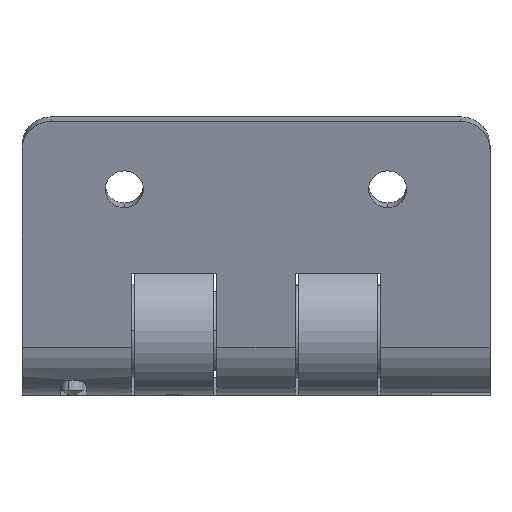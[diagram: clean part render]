
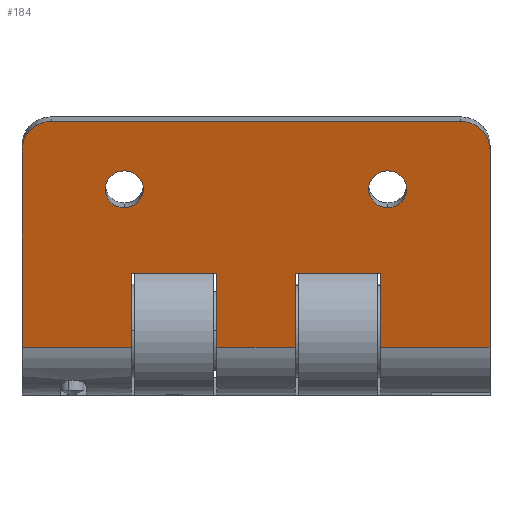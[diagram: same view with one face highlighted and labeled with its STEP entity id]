
A CAD part, left-side view. The second image highlights one B-rep face of the part: STEP entity #184.
In plain terms, the highlighted planar face has unit normal (-0.966, 0, -0.259).
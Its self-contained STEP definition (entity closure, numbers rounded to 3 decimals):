
#184=ADVANCED_FACE('NONE',(#376,#377,#378),#379,.T.);
#376=FACE_OUTER_BOUND('',#675,.T.);
#377=FACE_BOUND('',#676,.T.);
#378=FACE_BOUND('',#677,.T.);
#379=PLANE('',#678);
#675=EDGE_LOOP('',(#1848,#1849,#1850,#1851,#1852,#1853,#1854,#1855,#1856,#1857,#1858,#1859,#1860,#1861));
#676=EDGE_LOOP('',(#1862,#1863));
#677=EDGE_LOOP('',(#1864,#1865));
#678=AXIS2_PLACEMENT_3D('',#1866,#1867,#1868);
#1848=ORIENTED_EDGE('',*,*,#2782,.T.);
#1849=ORIENTED_EDGE('',*,*,#2806,.F.);
#1850=ORIENTED_EDGE('',*,*,#2807,.F.);
#1851=ORIENTED_EDGE('',*,*,#2808,.F.);
#1852=ORIENTED_EDGE('',*,*,#2764,.T.);
#1853=ORIENTED_EDGE('',*,*,#2799,.F.);
#1854=ORIENTED_EDGE('',*,*,#2809,.F.);
#1855=ORIENTED_EDGE('',*,*,#2810,.F.);
#1856=ORIENTED_EDGE('',*,*,#2756,.T.);
#1857=ORIENTED_EDGE('',*,*,#2811,.F.);
#1858=ORIENTED_EDGE('',*,*,#2812,.F.);
#1859=ORIENTED_EDGE('',*,*,#2813,.F.);
#1860=ORIENTED_EDGE('',*,*,#2814,.F.);
#1861=ORIENTED_EDGE('',*,*,#2815,.F.);
#1862=ORIENTED_EDGE('',*,*,#2738,.F.);
#1863=ORIENTED_EDGE('',*,*,#2816,.F.);
#1864=ORIENTED_EDGE('',*,*,#2734,.F.);
#1865=ORIENTED_EDGE('',*,*,#2817,.F.);
#1866=CARTESIAN_POINT('',(-7.778,90.0,-13.472));
#1867=DIRECTION('',(-0.966,0.,-0.259));
#1868=DIRECTION('',(0.259,0.,-0.966));
#2734=EDGE_CURVE('NONE',#3178,#3179,#3180,.T.);
#2738=EDGE_CURVE('NONE',#3186,#3187,#3188,.T.);
#2756=EDGE_CURVE('NONE',#3209,#3221,#3223,.T.);
#2764=EDGE_CURVE('NONE',#3233,#3237,#3239,.T.);
#2782=EDGE_CURVE('NONE',#3255,#3273,#3275,.T.);
#2799=EDGE_CURVE('NONE',#3303,#3237,#3305,.T.);
#2806=EDGE_CURVE('NONE',#3314,#3273,#3315,.T.);
#2807=EDGE_CURVE('NONE',#3316,#3314,#3317,.T.);
#2808=EDGE_CURVE('NONE',#3233,#3316,#3318,.T.);
#2809=EDGE_CURVE('NONE',#3319,#3303,#3320,.T.);
#2810=EDGE_CURVE('NONE',#3209,#3319,#3321,.T.);
#2811=EDGE_CURVE('NONE',#3322,#3221,#3323,.T.);
#2812=EDGE_CURVE('NONE',#3324,#3322,#3325,.T.);
#2813=EDGE_CURVE('NONE',#3326,#3324,#3327,.T.);
#2814=EDGE_CURVE('NONE',#3328,#3326,#3329,.T.);
#2815=EDGE_CURVE('NONE',#3255,#3328,#3330,.T.);
#2816=EDGE_CURVE('NONE',#3187,#3186,#3331,.T.);
#2817=EDGE_CURVE('NONE',#3179,#3178,#3332,.T.);
#3178=VERTEX_POINT('NONE',#3927);
#3179=VERTEX_POINT('NONE',#3928);
#3180=CIRCLE('',#3929,3.25);
#3186=VERTEX_POINT('NONE',#3937);
#3187=VERTEX_POINT('NONE',#3938);
#3188=CIRCLE('',#3939,3.25);
#3209=VERTEX_POINT('NONE',#3965);
#3221=VERTEX_POINT('NONE',#3980);
#3223=LINE('',#3982,#3983);
#3233=VERTEX_POINT('NONE',#3995);
#3237=VERTEX_POINT('NONE',#4000);
#3239=LINE('',#4002,#4003);
#3255=VERTEX_POINT('NONE',#4042);
#3273=VERTEX_POINT('NONE',#4094);
#3275=LINE('',#4096,#4097);
#3303=VERTEX_POINT('NONE',#4194);
#3305=LINE('',#4197,#4198);
#3314=VERTEX_POINT('NONE',#4210);
#3315=LINE('',#4211,#4212);
#3316=VERTEX_POINT('NONE',#4213);
#3317=LINE('',#4214,#4215);
#3318=LINE('',#4216,#4217);
#3319=VERTEX_POINT('NONE',#4218);
#3320=LINE('',#4219,#4220);
#3321=LINE('',#4221,#4222);
#3322=VERTEX_POINT('NONE',#4223);
#3323=LINE('',#4224,#4225);
#3324=VERTEX_POINT('NONE',#4226);
#3325=CIRCLE('',#4227,5.0);
#3326=VERTEX_POINT('NONE',#4228);
#3327=LINE('',#4229,#4230);
#3328=VERTEX_POINT('NONE',#4231);
#3329=CIRCLE('',#4232,5.0);
#3330=LINE('',#4233,#4234);
#3331=CIRCLE('',#4235,3.25);
#3332=CIRCLE('',#4236,3.25);
#3927=CARTESIAN_POINT('',(-18.713,22.5,27.338));
#3928=CARTESIAN_POINT('',(-17.031,22.5,21.06));
#3929=AXIS2_PLACEMENT_3D('',#5203,#5204,#5205);
#3937=CARTESIAN_POINT('',(-18.713,-22.5,27.338));
#3938=CARTESIAN_POINT('',(-17.031,-22.5,21.06));
#3939=AXIS2_PLACEMENT_3D('',#5211,#5212,#5213);
#3965=CARTESIAN_POINT('',(-10.625,-21.3,-2.847));
#3980=CARTESIAN_POINT('',(-10.625,-40.0,-2.847));
#3982=CARTESIAN_POINT('',(-10.625,100.0,-2.847));
#3983=VECTOR('',#5249,1000.0);
#3995=CARTESIAN_POINT('',(-10.625,6.7,-2.847));
#4000=CARTESIAN_POINT('',(-10.625,-6.7,-2.847));
#4002=CARTESIAN_POINT('',(-10.625,90.0,-2.847));
#4003=VECTOR('',#5265,1000.0);
#4042=CARTESIAN_POINT('',(-10.625,40.0,-2.847));
#4094=CARTESIAN_POINT('',(-10.625,21.3,-2.847));
#4096=CARTESIAN_POINT('',(-10.625,80.0,-2.847));
#4097=VECTOR('',#5289,1000.0);
#4194=CARTESIAN_POINT('',(-13.99,-6.7,9.71));
#4197=CARTESIAN_POINT('',(-7.778,-6.7,-13.472));
#4198=VECTOR('',#5312,1000.0);
#4210=CARTESIAN_POINT('',(-13.99,21.3,9.71));
#4211=CARTESIAN_POINT('',(-7.778,21.3,-13.472));
#4212=VECTOR('',#5325,1000.0);
#4213=CARTESIAN_POINT('',(-13.99,6.7,9.71));
#4214=CARTESIAN_POINT('',(-13.99,5.0,9.71));
#4215=VECTOR('',#5326,1000.0);
#4216=CARTESIAN_POINT('',(-7.778,6.7,-13.472));
#4217=VECTOR('',#5327,1000.0);
#4218=CARTESIAN_POINT('',(-13.99,-21.3,9.71));
#4219=CARTESIAN_POINT('',(-13.99,-25.0,9.71));
#4220=VECTOR('',#5328,1000.0);
#4221=CARTESIAN_POINT('',(-7.778,-21.3,-13.472));
#4222=VECTOR('',#5329,1000.0);
#4223=CARTESIAN_POINT('',(-19.684,-40.0,30.96));
#4224=CARTESIAN_POINT('',(-14.378,-40.0,11.159));
#4225=VECTOR('',#5330,1000.0);
#4226=CARTESIAN_POINT('',(-20.978,-35.0,35.79));
#4227=AXIS2_PLACEMENT_3D('',#5331,#5332,#5333);
#4228=CARTESIAN_POINT('',(-20.978,35.0,35.79));
#4229=CARTESIAN_POINT('',(-20.978,90.0,35.79));
#4230=VECTOR('',#5334,1000.0);
#4231=CARTESIAN_POINT('',(-19.684,40.0,30.96));
#4232=AXIS2_PLACEMENT_3D('',#5335,#5336,#5337);
#4233=CARTESIAN_POINT('',(-14.378,40.0,11.159));
#4234=VECTOR('',#5338,1000.0);
#4235=AXIS2_PLACEMENT_3D('',#5339,#5340,#5341);
#4236=AXIS2_PLACEMENT_3D('',#5342,#5343,#5344);
#5203=CARTESIAN_POINT('',(-17.872,22.5,24.199));
#5204=DIRECTION('',(-0.966,0.,-0.259));
#5205=DIRECTION('',(0.259,0.,-0.966));
#5211=CARTESIAN_POINT('',(-17.872,-22.5,24.199));
#5212=DIRECTION('',(-0.966,0.,-0.259));
#5213=DIRECTION('',(0.259,0.,-0.966));
#5249=DIRECTION('',(0.,-1.0,0.));
#5265=DIRECTION('',(0.,-1.0,0.));
#5289=DIRECTION('',(0.,-1.0,0.));
#5312=DIRECTION('',(0.259,0.,-0.966));
#5325=DIRECTION('',(0.259,0.,-0.966));
#5326=DIRECTION('',(0.,1.0,0.));
#5327=DIRECTION('',(-0.259,0.,0.966));
#5328=DIRECTION('',(0.,1.0,0.));
#5329=DIRECTION('',(-0.259,0.,0.966));
#5330=DIRECTION('',(0.259,0.,-0.966));
#5331=CARTESIAN_POINT('',(-19.684,-35.0,30.96));
#5332=DIRECTION('',(0.966,0.,0.259));
#5333=DIRECTION('',(-0.259,0.,0.966));
#5334=DIRECTION('',(0.,-1.0,0.));
#5335=CARTESIAN_POINT('',(-19.684,35.0,30.96));
#5336=DIRECTION('',(0.966,0.,0.259));
#5337=DIRECTION('',(0.259,0.,-0.966));
#5338=DIRECTION('',(-0.259,0.,0.966));
#5339=CARTESIAN_POINT('',(-17.872,-22.5,24.199));
#5340=DIRECTION('',(-0.966,0.,-0.259));
#5341=DIRECTION('',(0.259,0.,-0.966));
#5342=CARTESIAN_POINT('',(-17.872,22.5,24.199));
#5343=DIRECTION('',(-0.966,0.,-0.259));
#5344=DIRECTION('',(0.259,0.,-0.966));
